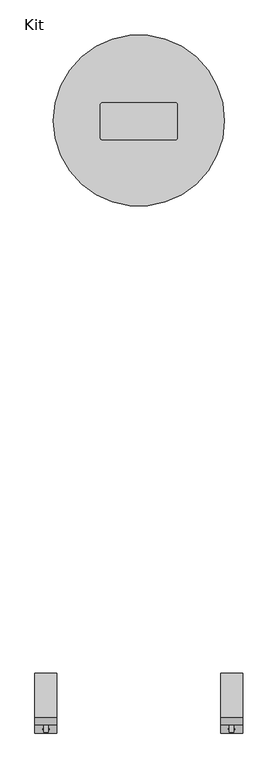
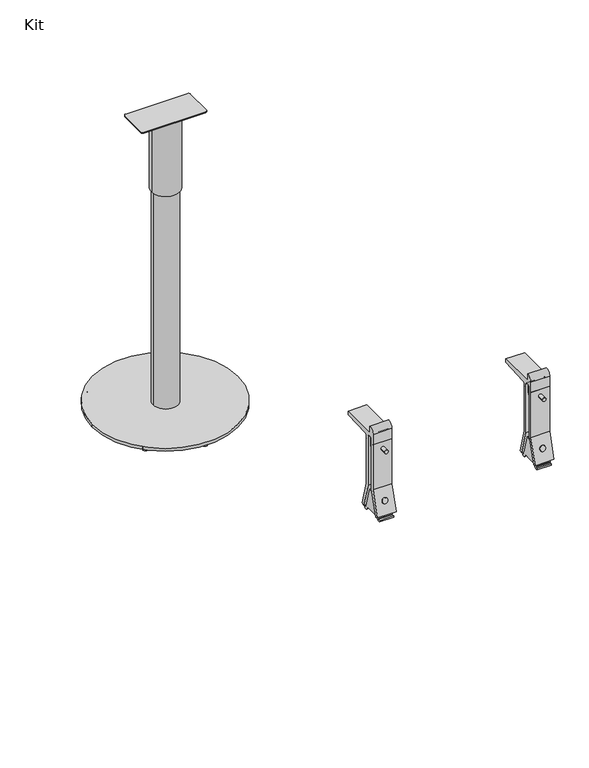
"""IFC4 building model written with IfcOpenShell, lengths in millimetres: furniture geometry, Steelcase - C Scape - Mid Storage Support - Perpendicular Application : Kit."""

from ifc_helpers import new_model, si_unit, point, frame, frame_2d, origin, origin_with_axes, place, context, project, spatial, polyline, circle_curve, trimmed, segment, composite_curve, outline, extrude, source, transform, mapped, element, save
from ifc_brep_helpers import plane_surface, cylinder_surface, advanced_brep


def kit_63d35be1(model_context):
    return source(origin(), model_context, "Body", "SolidModel", [
        advanced_brep(
        [(373.5962812, 1414.1460219, 838.2), (206.292165, 1414.1460219, 838.2), (200.9140039, 1408.7678608, 838.2), (200.9140039, 1334.1495112, 838.2), (206.0073575, 1329.0561576, 838.2), (373.5257939, 1329.0561576, 838.2), (378.7139797, 1334.2443433, 838.2), (378.7139797, 1409.0283234, 838.2), (373.5962812, 1414.1460219, 835.152), (378.7139797, 1409.0283234, 835.152), (378.7139797, 1334.2443433, 835.152), (373.5257939, 1329.0561576, 835.152), (206.0073575, 1329.0561576, 835.152), (200.9140039, 1334.1495112, 835.152), (200.9140039, 1408.7678608, 835.152), (206.292165, 1414.1460219, 835.152), (251.7139918, 1371.6010897, 835.152), (327.9139918, 1371.6010897, 835.152), (251.7139918, 1371.6010897, 625.602), (327.9139918, 1371.6010897, 625.602), (255.8150228, 1371.6010897, 625.602), (323.8129608, 1371.6010897, 625.602), (255.8150228, 1371.6010897, 14.3002), (323.8129608, 1371.6010897, 14.3002), (92.9639918, 1373.5061576, 14.3002), (486.6639918, 1373.5061576, 14.3002), (92.9639918, 1373.5061576, 6.2992), (486.6639918, 1373.5061576, 6.2992)],
        [
            (0, 1),
            (1, 2, circle_curve(frame((206.292165, 1408.7678608, 838.2), z_axis=(0.0, 0.0, 1.0), x_axis=(1.0, 0.0, 0.0)), 5.3781611)),
            (2, 3),
            (3, 4, circle_curve(frame((206.0073575, 1334.1495112, 838.2), z_axis=(0.0, 0.0, 1.0), x_axis=(1.0, 0.0, 0.0)), 5.0933536)),
            (4, 5),
            (5, 6, circle_curve(frame((373.5257939, 1334.2443433, 838.2), z_axis=(0.0, 0.0, 1.0), x_axis=(1.0, 0.0, 0.0)), 5.1881858)),
            (6, 7),
            (7, 0, circle_curve(frame((373.5962812, 1409.0283234, 838.2), z_axis=(0.0, 0.0, 1.0), x_axis=(1.0, 0.0, 0.0)), 5.1176985)),
            (8, 9, circle_curve(frame((373.5962812, 1409.0283234, 835.152), z_axis=(0.0, 0.0, -1.0), x_axis=(1.0, 0.0, 0.0)), 5.1176985)),
            (9, 10),
            (10, 11, circle_curve(frame((373.5257939, 1334.2443433, 835.152), z_axis=(0.0, 0.0, -1.0), x_axis=(1.0, 0.0, 0.0)), 5.1881858)),
            (11, 12),
            (12, 13, circle_curve(frame((206.0073575, 1334.1495112, 835.152), z_axis=(0.0, 0.0, -1.0), x_axis=(1.0, 0.0, 0.0)), 5.0933536)),
            (13, 14),
            (14, 15, circle_curve(frame((206.292165, 1408.7678608, 835.152), z_axis=(0.0, 0.0, -1.0), x_axis=(1.0, 0.0, 0.0)), 5.3781611)),
            (15, 8),
            (16, 17, circle_curve(frame((289.8139918, 1371.6010897, 835.152), z_axis=(0.0, 0.0, 1.0), x_axis=(1.0, 0.0, 0.0)), 38.1)),
            (17, 16, circle_curve(frame((289.8139918, 1371.6010897, 835.152), z_axis=(0.0, 0.0, 1.0), x_axis=(1.0, 0.0, 0.0)), 38.1)),
            (0, 8),
            (15, 1),
            (14, 2),
            (13, 3),
            (12, 4),
            (11, 5),
            (10, 6),
            (9, 7),
            (18, 19, circle_curve(frame((289.8139918, 1371.6010897, 625.602), z_axis=(0.0, 0.0, -1.0), x_axis=(1.0, 0.0, 0.0)), 38.1)),
            (19, 18, circle_curve(frame((289.8139918, 1371.6010897, 625.602), z_axis=(0.0, 0.0, -1.0), x_axis=(1.0, 0.0, 0.0)), 38.1)),
            (20, 21, circle_curve(frame((289.8139918, 1371.6010897, 625.602), z_axis=(0.0, 0.0, 1.0), x_axis=(1.0, 0.0, 0.0)), 33.998969)),
            (21, 20, circle_curve(frame((289.8139918, 1371.6010897, 625.602), z_axis=(0.0, 0.0, 1.0), x_axis=(1.0, 0.0, 0.0)), 33.998969)),
            (19, 17),
            (16, 18),
            (20, 22),
            (22, 23, circle_curve(frame((289.8139918, 1371.6010897, 14.3002), z_axis=(0.0, 0.0, 1.0), x_axis=(1.0, 0.0, 0.0)), 33.998969)),
            (23, 21),
            (23, 22, circle_curve(frame((289.8139918, 1371.6010897, 14.3002), z_axis=(0.0, 0.0, 1.0), x_axis=(1.0, 0.0, 0.0)), 33.998969)),
            (24, 25, circle_curve(frame((289.8139918, 1373.5061576, 14.3002), z_axis=(0.0, 0.0, 1.0), x_axis=(1.0, 0.0, 0.0)), 196.85)),
            (25, 24, circle_curve(frame((289.8139918, 1373.5061576, 14.3002), z_axis=(0.0, 0.0, 1.0), x_axis=(1.0, 0.0, 0.0)), 196.85)),
            (26, 27, circle_curve(frame((289.8139918, 1373.5061576, 6.2992), z_axis=(0.0, 0.0, -1.0), x_axis=(1.0, 0.0, 0.0)), 196.85)),
            (27, 26, circle_curve(frame((289.8139918, 1373.5061576, 6.2992), z_axis=(0.0, 0.0, -1.0), x_axis=(1.0, 0.0, 0.0)), 196.85)),
            (24, 26),
            (27, 25),
        ],
        [
            plane_surface(frame((230.9183686, 1414.1460219, 838.2), z_axis=(0.0, 0.0, 1.0), x_axis=(-1.0, 0.0, 0.0))),
            plane_surface(frame((230.9183686, 1414.1460219, 835.152), z_axis=(0.0, 0.0, -1.0), x_axis=(1.0, 0.0, 0.0))),
            plane_surface(frame((373.5962812, 1414.1460219, 838.2), z_axis=(0.0, 1.0, 0.0), x_axis=(0.0, 0.0, -1.0))),
            cylinder_surface(frame((206.292165, 1408.7678608, 835.152), z_axis=(0.0, 0.0, 1.0), x_axis=(1.0, 0.0, 0.0)), 5.3781611),
            plane_surface(frame((200.9140039, 1408.7678608, 838.2), z_axis=(-1.0, 0.0, 0.0), x_axis=(0.0, 0.0, -1.0))),
            cylinder_surface(frame((206.0073575, 1334.1495112, 835.152), z_axis=(0.0, 0.0, 1.0), x_axis=(1.0, 0.0, 0.0)), 5.0933536),
            plane_surface(frame((206.0073575, 1329.0561576, 838.2), z_axis=(0.0, -1.0, 0.0), x_axis=(0.0, 0.0, -1.0))),
            cylinder_surface(frame((373.5257939, 1334.2443433, 835.152), z_axis=(0.0, 0.0, 1.0), x_axis=(1.0, 0.0, 0.0)), 5.1881858),
            plane_surface(frame((378.7139797, 1334.2443433, 838.2), z_axis=(1.0, 0.0, 0.0), x_axis=(0.0, 0.0, -1.0))),
            cylinder_surface(frame((373.5962812, 1409.0283234, 835.152), z_axis=(0.0, 0.0, 1.0), x_axis=(1.0, 0.0, 0.0)), 5.1176985),
            plane_surface(frame((327.9139918, 1371.6010897, 625.602), z_axis=(0.0, 0.0, -1.0), x_axis=(0.0, -1.0, 0.0))),
            cylinder_surface(frame((289.8139918, 1371.6010897, 625.602), z_axis=(0.0, 0.0, 1.0), x_axis=(1.0, 0.0, 0.0)), 38.1),
            cylinder_surface(frame((289.8139918, 1371.6010897, 14.3002), z_axis=(0.0, 0.0, 1.0), x_axis=(1.0, 0.0, 0.0)), 33.998969),
            plane_surface(frame((486.6639918, 1373.5061576, 14.3002), z_axis=(0.0, 0.0, 1.0), x_axis=(0.0, 1.0, 0.0))),
            plane_surface(frame((486.6639918, 1373.5061576, 6.2992), z_axis=(0.0, 0.0, -1.0), x_axis=(0.0, -1.0, 0.0))),
            cylinder_surface(frame((289.8139918, 1373.5061576, 6.2992), z_axis=(0.0, 0.0, 1.0), x_axis=(1.0, 0.0, 0.0)), 196.85),
        ],
        [
            (0, [[1, 2, 3, 4, 5, 6, 7, 8]]),
            (1, [[9, 10, 11, 12, 13, 14, 15, 16], [17, 18]]),
            (2, [[-1, 19, -16, 20]]),
            (3, [[-2, -20, -15, 21]]),
            (4, [[-3, -21, -14, 22]]),
            (5, [[-4, -22, -13, 23]]),
            (6, [[-5, -23, -12, 24]]),
            (7, [[-6, -24, -11, 25]]),
            (8, [[-7, -25, -10, 26]]),
            (9, [[-8, -26, -9, -19]]),
            (10, [[27, 28], [29, 30]]),
            (11, [[-28, 31, -17, 32]]),
            (11, [[-27, -32, -18, -31]]),
            (12, [[33, 34, 35, -29]]),
            (12, [[-33, -30, -35, 36]]),
            (13, [[37, 38], [-34, -36]]),
            (14, [[39, 40]]),
            (15, [[-37, 41, -40, 42]]),
            (15, [[-38, -42, -39, -41]]),
        ],
    ),
        extrude(outline(composite_curve([segment(trimmed(circle_curve(frame_2d((289.8139918, 1555.6636046)), 6.35), [point((283.4639918, 1555.6636046))], [point((296.1639918, 1555.6636046))], False, "CARTESIAN"), True, "CONTINUOUS"), segment(trimmed(circle_curve(frame_2d((289.8139918, 1555.6636046)), 6.35), [point((296.1639918, 1555.6636046))], [point((283.4639918, 1555.6636046))], False, "CARTESIAN"), True, "CONTINUOUS")], self_intersect=False)), origin_with_axes(), (0.0, 0.0, 1.0), 6.2992),
        extrude(outline(composite_curve([segment(trimmed(circle_curve(frame_2d((289.8139918, 1187.5385749)), 6.35), [point((283.4639918, 1187.5385749))], [point((296.1639918, 1187.5385749))], False, "CARTESIAN"), True, "CONTINUOUS"), segment(trimmed(circle_curve(frame_2d((289.8139918, 1187.5385749)), 6.35), [point((296.1639918, 1187.5385749))], [point((283.4639918, 1187.5385749))], False, "CARTESIAN"), True, "CONTINUOUS")], self_intersect=False)), origin_with_axes(), (0.0, 0.0, 1.0), 6.2992),
        extrude(outline(composite_curve([segment(trimmed(circle_curve(frame_2d((419.9658442, 1241.4492373)), 6.35), [point((424.4559723, 1245.9393654))], [point((415.4757161, 1236.9591093))], False, "CARTESIAN"), True, "CONTINUOUS"), segment(trimmed(circle_curve(frame_2d((419.9658442, 1241.4492373)), 6.35), [point((415.4757161, 1236.9591093))], [point((424.4559723, 1245.9393654))], False, "CARTESIAN"), True, "CONTINUOUS")], self_intersect=False)), origin_with_axes(), (0.0, 0.0, 1.0), 6.2992),
        extrude(outline(composite_curve([segment(trimmed(circle_curve(frame_2d((159.6621393, 1501.7529422)), 6.35), [point((164.1522674, 1506.2430702))], [point((155.1720113, 1497.2628141))], False, "CARTESIAN"), True, "CONTINUOUS"), segment(trimmed(circle_curve(frame_2d((159.6621393, 1501.7529422)), 6.35), [point((155.1720113, 1497.2628141))], [point((164.1522674, 1506.2430702))], False, "CARTESIAN"), True, "CONTINUOUS")], self_intersect=False)), origin_with_axes(), (0.0, 0.0, 1.0), 6.2992),
        extrude(outline(composite_curve([segment(trimmed(circle_curve(frame_2d((159.6621393, 1241.4492373)), 6.35), [point((164.1522674, 1236.9591093))], [point((155.1720113, 1245.9393654))], False, "CARTESIAN"), True, "CONTINUOUS"), segment(trimmed(circle_curve(frame_2d((159.6621393, 1241.4492373)), 6.35), [point((155.1720113, 1245.9393654))], [point((164.1522674, 1236.9591093))], False, "CARTESIAN"), True, "CONTINUOUS")], self_intersect=False)), origin_with_axes(), (0.0, 0.0, 1.0), 6.2992),
        extrude(outline(composite_curve([segment(trimmed(circle_curve(frame_2d((419.9658442, 1501.7529422)), 6.35), [point((424.4559723, 1497.2628141))], [point((415.4757161, 1506.2430702))], False, "CARTESIAN"), True, "CONTINUOUS"), segment(trimmed(circle_curve(frame_2d((419.9658442, 1501.7529422)), 6.35), [point((415.4757161, 1506.2430702))], [point((424.4559723, 1497.2628141))], False, "CARTESIAN"), True, "CONTINUOUS")], self_intersect=False)), origin_with_axes(), (0.0, 0.0, 1.0), 6.2992),
        extrude(outline(composite_curve([segment(trimmed(circle_curve(frame_2d((473.8765066, 1371.6010897)), 6.35), [point((473.8765066, 1377.9510897))], [point((473.8765066, 1365.2510897))], False, "CARTESIAN"), True, "CONTINUOUS"), segment(trimmed(circle_curve(frame_2d((473.8765066, 1371.6010897)), 6.35), [point((473.8765066, 1365.2510897))], [point((473.8765066, 1377.9510897))], False, "CARTESIAN"), True, "CONTINUOUS")], self_intersect=False)), origin_with_axes(), (0.0, 0.0, 1.0), 6.2992),
        extrude(outline(composite_curve([segment(trimmed(circle_curve(frame_2d((105.7514769, 1371.6010897)), 6.35), [point((105.7514769, 1377.9510897))], [point((105.7514769, 1365.2510897))], False, "CARTESIAN"), True, "CONTINUOUS"), segment(trimmed(circle_curve(frame_2d((105.7514769, 1371.6010897)), 6.35), [point((105.7514769, 1365.2510897))], [point((105.7514769, 1377.9510897))], False, "CARTESIAN"), True, "CONTINUOUS")], self_intersect=False)), origin_with_axes(), (0.0, 0.0, 1.0), 6.2992),
        extrude(outline(composite_curve([segment(polyline([(0.0, 838.2), (101.600003, 838.2), (101.600003, 828.2177708), (19.2990887, 824.4254454)]), True, "CONTINUOUS"), segment(trimmed(circle_curve(frame_2d((19.4630785, 820.8665431)), 3.5626785), [point((19.2990887, 824.4254454))], [point((15.9004, 820.8665431))], True, "CARTESIAN"), True, "CONTINUOUS"), segment(polyline([(15.9004, 820.8665431), (15.9004, 813.4440849), (14.8286664, 813.0540058), (15.9004, 813.0540058), (15.9004, 684.432242), (35.5026697, 616.0710033), (27.860447, 613.8796312), (7.9494757, 683.3174402), (7.9494757, 821.8670528)]), True, "CONTINUOUS"), segment(trimmed(circle_curve(frame_2d((0.0, 821.8670528)), 7.9494757), [point((7.9494757, 821.8670528))], [point((-7.9494757, 821.8670528))], True, "CARTESIAN"), True, "CONTINUOUS"), segment(polyline([(-7.9494757, 821.8670528), (-7.9494757, 683.3174402), (-27.860447, 613.8796312), (-35.5026697, 616.0710033), (-15.9004, 684.432242), (-15.9004, 813.0540058), (-14.8286664, 813.0540058), (-15.9004, 813.4440849), (-15.9004, 842.6450048)]), True, "CONTINUOUS"), segment(trimmed(circle_curve(frame_2d((-0.9279135, 842.3023671)), 14.9764065), [point((-15.9004, 842.6450048))], [point((0.0, 857.25))], False, "CARTESIAN"), True, "CONTINUOUS"), segment(polyline([(0.0, 857.25), (0.0, 838.2)]), True, "CONTINUOUS")], self_intersect=False)), frame((50.8, 0.0, 0.0), z_axis=(1.0, 0.0, 0.0), x_axis=(0.0, 1.0, 0.0)), (0.0, 0.0, 1.0), 50.8),
        extrude(outline(composite_curve([segment(trimmed(circle_curve(frame_2d((0.0, -7.62)), 7.62), [point((0.0, -15.2400001))], [point((0.0, 0.0))], False, "CARTESIAN"), True, "CONTINUOUS"), segment(trimmed(circle_curve(frame_2d((0.0, -7.62)), 7.62), [point((0.0, 0.0))], [point((0.0, -15.2400001))], False, "CARTESIAN"), True, "CONTINUOUS")], self_intersect=False)), frame((76.0372744, -27.6488399, 643.460563), z_axis=(0.0, -0.9612616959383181, 0.27563735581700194), x_axis=(-1.0, 0.0, 0.0)), (0.0, 0.0, 1.0), 1.4986),
        extrude(outline(composite_curve([segment(trimmed(circle_curve(frame_2d((0.0, -7.62)), 7.62), [point((0.0, -15.2400001))], [point((0.0, 0.0))], False, "CARTESIAN"), True, "CONTINUOUS"), segment(trimmed(circle_curve(frame_2d((0.0, -7.62)), 7.62), [point((0.0, 0.0))], [point((0.0, -15.2400001))], False, "CARTESIAN"), True, "CONTINUOUS")], self_intersect=False)), frame((503.428, -27.6488399, 643.460563), z_axis=(0.0, -0.9612616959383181, 0.27563735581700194), x_axis=(-1.0, 0.0, 0.0)), (0.0, 0.0, 1.0), 1.4986),
        extrude(outline(composite_curve([segment(trimmed(circle_curve(frame_2d((0.0, -7.62)), 7.62), [point((0.0, -15.2400001))], [point((0.0, 0.0))], False, "CARTESIAN"), True, "CONTINUOUS"), segment(trimmed(circle_curve(frame_2d((0.0, -7.62)), 7.62), [point((0.0, 0.0))], [point((0.0, -15.2400001))], False, "CARTESIAN"), True, "CONTINUOUS")], self_intersect=False)), frame((503.428, 27.6488399, 643.460563), z_axis=(0.0, 0.9612616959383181, 0.27563735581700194), x_axis=(1.0, 0.0, 0.0)), (0.0, 0.0, 1.0), 1.4986),
        extrude(outline(composite_curve([segment(polyline([(831.0188755, 484.3779939), (796.4677708, 484.3779939)]), True, "CONTINUOUS"), segment(trimmed(circle_curve(frame_2d((796.4677708, 503.3503365)), 18.9723425), [point((796.4677708, 484.3779939))], [point((796.4677708, 522.322679))], False, "CARTESIAN"), True, "CONTINUOUS"), segment(polyline([(796.4677708, 522.322679), (831.0188755, 522.322679), (831.0188755, 484.3779939)]), True, "CONTINUOUS")], self_intersect=False)), frame((0.0, -7.7216, 0.0), z_axis=(0.0, 1.0, 0.0), x_axis=(0.0, 0.0, 1.0)), (0.0, 0.0, 1.0), 15.4432),
        extrude(outline(composite_curve([segment(trimmed(circle_curve(frame_2d((795.2125216, 503.3057999)), 5.08), [point((795.2125216, 498.2257999))], [point((795.2125216, 508.3857999))], False, "CARTESIAN"), True, "CONTINUOUS"), segment(trimmed(circle_curve(frame_2d((795.2125216, 503.3057999)), 5.08), [point((795.2125216, 508.3857999))], [point((795.2125216, 498.2257999))], False, "CARTESIAN"), True, "CONTINUOUS")], self_intersect=False)), frame((0.0, -33.751708, 0.0), z_axis=(0.0, 1.0, 0.0), x_axis=(0.0, 0.0, 1.0)), (0.0, 0.0, 1.0), 67.5034159),
        extrude(outline(polyline([(-12.7029566, 666.75), (0.0, 666.75), (12.7029566, 666.75), (28.4480001, 611.8301829), (28.4480001, 607.0345769), (29.7688272, 605.713791), (34.9250008, 605.713791), (34.9250008, 601.7005912), (32.4173128, 600.2527871), (27.5068015, 600.2527871), (22.9870008, 604.7725827), (22.9870008, 610.3620174), (0.0, 610.3620174), (-22.9870008, 610.3620174), (-22.9870008, 604.7725827), (-27.5068015, 600.2527871), (-32.4173128, 600.2527871), (-34.9250008, 601.7005912), (-34.9250008, 605.713791), (-29.7688272, 605.713791), (-28.4480001, 607.0345769), (-28.4480001, 611.8301829), (-12.7029566, 666.75)])), frame((484.4556575, 0.0, 0.0), z_axis=(1.0, 0.0, 0.0), x_axis=(0.0, 1.0, 0.0)), (0.0, 0.0, 1.0), 37.9446851),
        extrude(outline(composite_curve([segment(polyline([(0.0, 838.2), (101.600003, 838.2), (101.600003, 828.2177708), (19.2990887, 824.4254454)]), True, "CONTINUOUS"), segment(trimmed(circle_curve(frame_2d((19.4630785, 820.8665431)), 3.5626785), [point((19.2990887, 824.4254454))], [point((15.9004, 820.8665431))], True, "CARTESIAN"), True, "CONTINUOUS"), segment(polyline([(15.9004, 820.8665431), (15.9004, 813.4440849), (14.8286664, 813.0540058), (15.9004, 813.0540058), (15.9004, 684.432242), (35.5026697, 616.0710033), (27.860447, 613.8796312), (7.9494757, 683.3174402), (7.9494757, 821.8670528)]), True, "CONTINUOUS"), segment(trimmed(circle_curve(frame_2d((0.0, 821.8670528)), 7.9494757), [point((7.9494757, 821.8670528))], [point((-7.9494757, 821.8670528))], True, "CARTESIAN"), True, "CONTINUOUS"), segment(polyline([(-7.9494757, 821.8670528), (-7.9494757, 683.3174402), (-27.860447, 613.8796312), (-35.5026697, 616.0710033), (-15.9004, 684.432242), (-15.9004, 813.0540058), (-14.8286664, 813.0540058), (-15.9004, 813.4440849), (-15.9004, 842.6450048)]), True, "CONTINUOUS"), segment(trimmed(circle_curve(frame_2d((-0.9279135, 842.3023671)), 14.9764065), [point((-15.9004, 842.6450048))], [point((0.0, 857.25))], False, "CARTESIAN"), True, "CONTINUOUS"), segment(polyline([(0.0, 857.25), (0.0, 838.2)]), True, "CONTINUOUS")], self_intersect=False)), frame((478.028, 0.0, 0.0), z_axis=(1.0, 0.0, 0.0), x_axis=(0.0, 1.0, 0.0)), (0.0, 0.0, 1.0), 50.8),
        extrude(outline(composite_curve([segment(trimmed(circle_curve(frame_2d((0.0, -7.62)), 7.62), [point((0.0, -15.2400001))], [point((0.0, 0.0))], False, "CARTESIAN"), True, "CONTINUOUS"), segment(trimmed(circle_curve(frame_2d((0.0, -7.62)), 7.62), [point((0.0, 0.0))], [point((0.0, -15.2400001))], False, "CARTESIAN"), True, "CONTINUOUS")], self_intersect=False)), frame((76.0372744, 27.6488399, 643.460563), z_axis=(0.0, 0.9612616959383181, 0.27563735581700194), x_axis=(1.0, 0.0, 0.0)), (0.0, 0.0, 1.0), 1.4986),
        advanced_brep(
        [(57.1499939, -7.7216, 831.0188755), (57.1499939, -7.7216, 796.4677708), (95.094679, -7.7216, 796.4677708), (95.094679, -7.7216, 831.0188755), (81.1577999, -7.7216, 795.2125216), (70.9977999, -7.7216, 795.2125216), (57.1499939, 7.7216, 831.0188755), (95.094679, 7.7216, 831.0188755), (95.094679, 7.7216, 796.4677708), (57.1499939, 7.7216, 796.4677708), (70.9977999, 7.7216, 795.2125216), (81.1577999, 7.7216, 795.2125216), (70.9977999, -33.751708, 795.2125216), (81.1577999, -33.751708, 795.2125216), (70.9977999, 33.751708, 795.2125216), (81.1577999, 33.751708, 795.2125216)],
        [
            (0, 1),
            (1, 2, circle_curve(frame((76.1223365, -7.7216, 796.4677708), z_axis=(0.0, -1.0, 0.0), x_axis=(1.0, 0.0, 0.0)), 18.9723425)),
            (2, 3),
            (3, 0),
            (4, 5, circle_curve(frame((76.0777999, -7.7216, 795.2125216), z_axis=(0.0, 1.0, 0.0), x_axis=(1.0, 0.0, 0.0)), 5.08)),
            (5, 4, circle_curve(frame((76.0777999, -7.7216, 795.2125216), z_axis=(0.0, 1.0, 0.0), x_axis=(1.0, 0.0, 0.0)), 5.08)),
            (6, 7),
            (7, 8),
            (8, 9, circle_curve(frame((76.1223365, 7.7216, 796.4677708), z_axis=(0.0, 1.0, 0.0), x_axis=(1.0, 0.0, 0.0)), 18.9723425)),
            (9, 6),
            (10, 11, circle_curve(frame((76.0777999, 7.7216, 795.2125216), z_axis=(0.0, -1.0, 0.0), x_axis=(1.0, 0.0, 0.0)), 5.08)),
            (11, 10, circle_curve(frame((76.0777999, 7.7216, 795.2125216), z_axis=(0.0, -1.0, 0.0), x_axis=(1.0, 0.0, 0.0)), 5.08)),
            (0, 6),
            (9, 1),
            (8, 2),
            (7, 3),
            (12, 13, circle_curve(frame((76.0777999, -33.751708, 795.2125216), z_axis=(0.0, -1.0, 0.0), x_axis=(1.0, 0.0, 0.0)), 5.08)),
            (13, 12, circle_curve(frame((76.0777999, -33.751708, 795.2125216), z_axis=(0.0, -1.0, 0.0), x_axis=(1.0, 0.0, 0.0)), 5.08)),
            (14, 15, circle_curve(frame((76.0777999, 33.751708, 795.2125216), z_axis=(0.0, 1.0, 0.0), x_axis=(1.0, 0.0, 0.0)), 5.08)),
            (15, 14, circle_curve(frame((76.0777999, 33.751708, 795.2125216), z_axis=(0.0, 1.0, 0.0), x_axis=(1.0, 0.0, 0.0)), 5.08)),
            (12, 5),
            (4, 13),
            (15, 11),
            (10, 14),
        ],
        [
            plane_surface(frame((57.1499939, -7.7216, -304.8), z_axis=(0.0, -1.0, 0.0), x_axis=(0.0, 0.0, -1.0))),
            plane_surface(frame((57.1499939, 7.7216, -304.8), z_axis=(0.0, 1.0, 0.0), x_axis=(0.0, 0.0, 1.0))),
            plane_surface(frame((57.1499939, -7.7216, 831.0188755), z_axis=(-1.0, 0.0, 0.0), x_axis=(0.0, 1.0, 0.0))),
            cylinder_surface(frame((76.1223365, 7.7216, 796.4677708), z_axis=(0.0, -1.0, 0.0), x_axis=(1.0, 0.0, 0.0)), 18.9723425),
            plane_surface(frame((95.094679, -7.7216, 796.4677708), z_axis=(1.0, 0.0, 0.0), x_axis=(0.0, 1.0, 0.0))),
            plane_surface(frame((95.094679, -7.7216, 831.0188755), z_axis=(0.0, 0.0, 1.0), x_axis=(0.0, 1.0, 0.0))),
            plane_surface(frame((81.1577999, -33.751708, 795.2125216), z_axis=(0.0, -1.0, 0.0), x_axis=(0.0, 0.0, 1.0))),
            plane_surface(frame((81.1577999, 33.751708, 795.2125216), z_axis=(0.0, 1.0, 0.0), x_axis=(0.0, 0.0, -1.0))),
            cylinder_surface(frame((76.0777999, 33.751708, 795.2125216), z_axis=(0.0, -1.0, 0.0), x_axis=(1.0, 0.0, 0.0)), 5.08),
        ],
        [
            (0, [[1, 2, 3, 4], [5, 6]]),
            (1, [[7, 8, 9, 10], [11, 12]]),
            (2, [[-1, 13, -10, 14]]),
            (3, [[-2, -14, -9, 15]]),
            (4, [[-3, -15, -8, 16]]),
            (5, [[-4, -16, -7, -13]]),
            (6, [[17, 18]]),
            (7, [[19, 20]]),
            (8, [[-17, 21, -5, 22]]),
            (8, [[-20, 23, -11, 24]]),
            (8, [[-18, -22, -6, -21]]),
            (8, [[-19, -24, -12, -23]]),
        ],
    ),
        extrude(outline(polyline([(-12.7029566, 666.75), (0.0, 666.75), (12.7029566, 666.75), (28.4480001, 611.8301829), (28.4480001, 607.0345769), (29.7688272, 605.713791), (34.9250008, 605.713791), (34.9250008, 601.7005912), (32.4173128, 600.2527871), (27.5068015, 600.2527871), (22.9870008, 604.7725827), (22.9870008, 610.3620174), (0.0, 610.3620174), (-22.9870008, 610.3620174), (-22.9870008, 604.7725827), (-27.5068015, 600.2527871), (-32.4173128, 600.2527871), (-34.9250008, 601.7005912), (-34.9250008, 605.713791), (-29.7688272, 605.713791), (-28.4480001, 607.0345769), (-28.4480001, 611.8301829), (-12.7029566, 666.75)])), frame((57.1499939, 0.0, 0.0), z_axis=(1.0, 0.0, 0.0), x_axis=(0.0, 1.0, 0.0)), (0.0, 0.0, 1.0), 37.9446851),
    ])


if __name__ == "__main__":
    model = new_model("IFC4")
    model_context = context("Model", 3, world=origin())
    ifc_project = project(units=[si_unit("LENGTHUNIT", "METRE", prefix="MILLI")], contexts=[model_context])
    site = spatial("IfcSite", under=ifc_project)
    building = spatial("IfcBuilding", under=site)
    placement = place(None, origin())
    kit_shape = kit_63d35be1(model_context)
    element("IfcFurniture", 1, ObjectType="Steelcase - C Scape - Mid Storage Support - Perpendicular Application : Kit", at=placement, inside=building, context=model_context, shape_type="MappedRepresentation", body=[
        mapped(kit_shape, transform((0.0, 0.0, 0.0), x_axis=(1.0, 0.0, 0.0), y_axis=(0.0, 1.0, 0.0), z_axis=(0.0, 0.0, 1.0))),
    ])
    save(model, "model.ifc")
